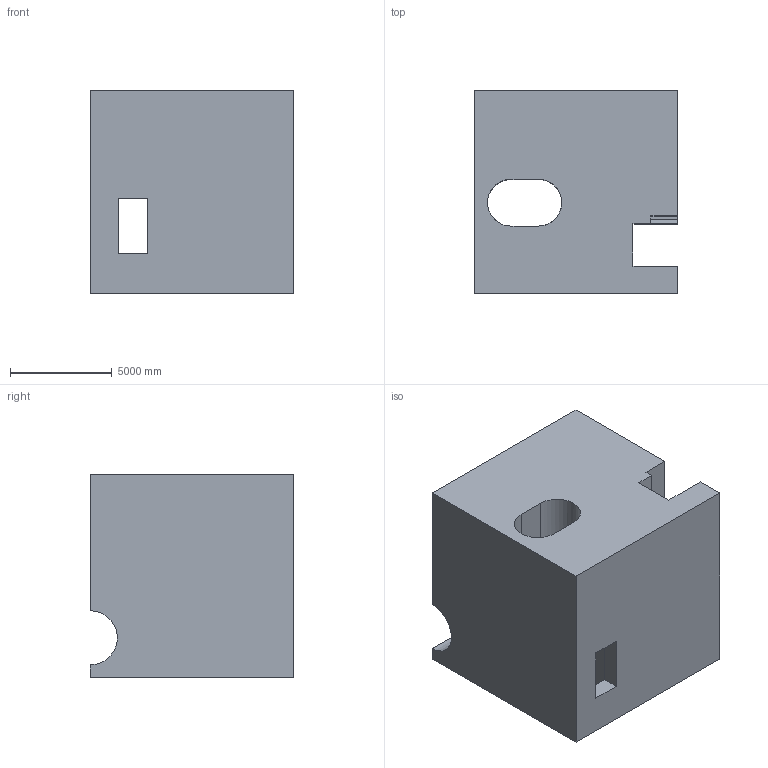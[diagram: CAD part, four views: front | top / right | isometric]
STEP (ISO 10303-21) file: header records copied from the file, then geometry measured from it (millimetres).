
FILE_DESCRIPTION (( 'STEP AP203' ), '1' );
FILE_NAME ('135.STEP', '2022-08-31T11:49:10', ( 'user' ), ( '' ), 'SwSTEP 2.0', 'SolidWorks 2021', '' );
FILE_SCHEMA (( 'CONFIG_CONTROL_DESIGN' ));
Length unit declared in the file: centimetre
Products named in the file (1): 135
Bounding box: 10000 x 10000 x 10000 mm (x, y, z)
Volume: 758688658474.4 mm3; surface area: 817111937.3 mm2
Topology: 1 solids, 1 shells, 40 faces, 126 edges, 84 vertices
Faces by surface type: plane 36, cylinder 4
Entity records: 1477 total; most frequent: CARTESIAN_POINT 263, ORIENTED_EDGE 252, DIRECTION 218, EDGE_CURVE 126, LINE 108, VECTOR 108, VERTEX_POINT 84, AXIS2_PLACEMENT_3D 55
